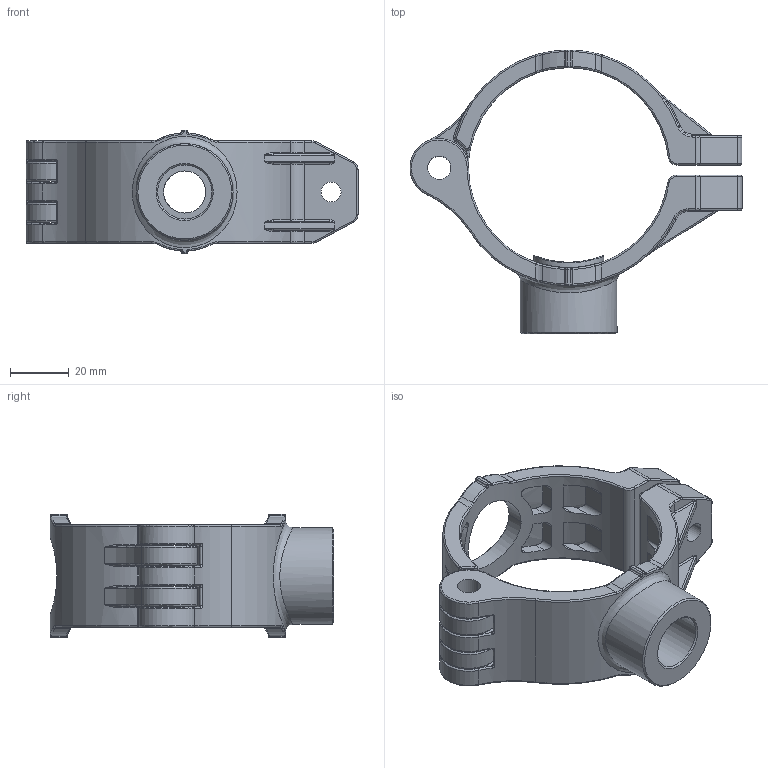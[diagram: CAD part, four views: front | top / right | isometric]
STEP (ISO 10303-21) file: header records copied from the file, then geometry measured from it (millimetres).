
FILE_DESCRIPTION(/* description */ (''),/* implementation_level */ '2;1');
FILE_NAME(/* name */ 'AU19 6099 00.stp',/* time_stamp */ '2025-07-25T14:07:22+08:00',/* author */ (''),/* organization */ (''),/* preprocessor_version */ 'ST-DEVELOPER v11',/* originating_system */ 'SIEMENS PLM Software NX 7.5',/* authorisation */ '');
FILE_SCHEMA (('CONFIG_CONTROL_DESIGN'));
Length unit declared in the file: millimetre
Products named in the file (1): Admi3CF6xybh
Bounding box: 113.39 x 96.85 x 42.31 mm (x, y, z)
Volume: 69623.2 mm3; surface area: 32896.3 mm2
Topology: 2 solids, 2 shells, 587 faces, 1468 edges, 889 vertices
Faces by surface type: cylinder 250, torus 111, plane 106, bspline 101, sphere 16, cone 3
Full cylindrical faces by diameter (mm): 18.5 x1, 33 x1
Entity records: 25443 total; most frequent: CARTESIAN_POINT 12520, ORIENTED_EDGE 2876, DIRECTION 2488, EDGE_CURVE 1438, AXIS2_PLACEMENT_3D 1029, VERTEX_POINT 882, EDGE_LOOP 632, ADVANCED_FACE 587
